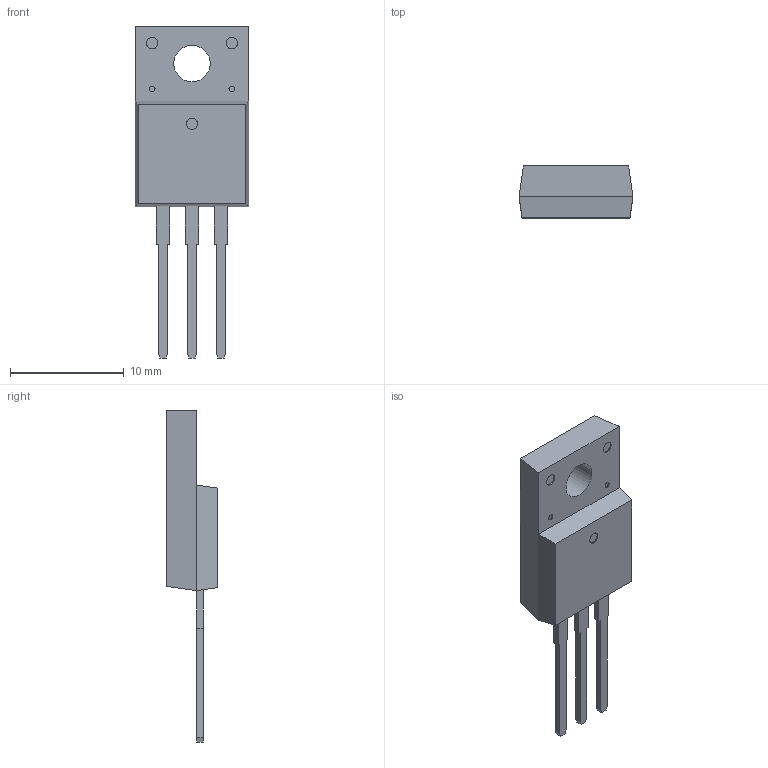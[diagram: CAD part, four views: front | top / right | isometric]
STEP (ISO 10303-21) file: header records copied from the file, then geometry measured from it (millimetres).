
FILE_DESCRIPTION(/* description */ ('Unknown'),/* implementation_level */ '2;1');
FILE_NAME(/* name */ 'ITO-220AB-1',/* time_stamp */ '2024-04-19T08:18:37+08:00',/* author */ ('Unknown'),/* organization */ ('Unknown'),/* preprocessor_version */ 'ST-DEVELOPER v18.104',/* originating_system */ 'Solid Edge',/* authorisation */ 'Unknown');
FILE_SCHEMA (('AUTOMOTIVE_DESIGN {1 0 10303 214 3 1 1}'));
Length unit declared in the file: millimetre
Products named in the file (1): ITO-220AB-1
Bounding box: 10 x 4.55 x 29.17 mm (x, y, z)
Volume: 569.9 mm3; surface area: 644.1 mm2
Topology: 4 solids, 4 shells, 58 faces, 132 edges, 87 vertices
Faces by surface type: plane 52, cylinder 6
Full cylindrical faces by diameter (mm): 0.5 x2, 1 x3, 3.2 x1
Entity records: 1763 total; most frequent: CARTESIAN_POINT 270, DIRECTION 255, ORIENTED_EDGE 250, EDGE_CURVE 125, LINE 113, VECTOR 113, VERTEX_POINT 86, EDGE_LOOP 71
